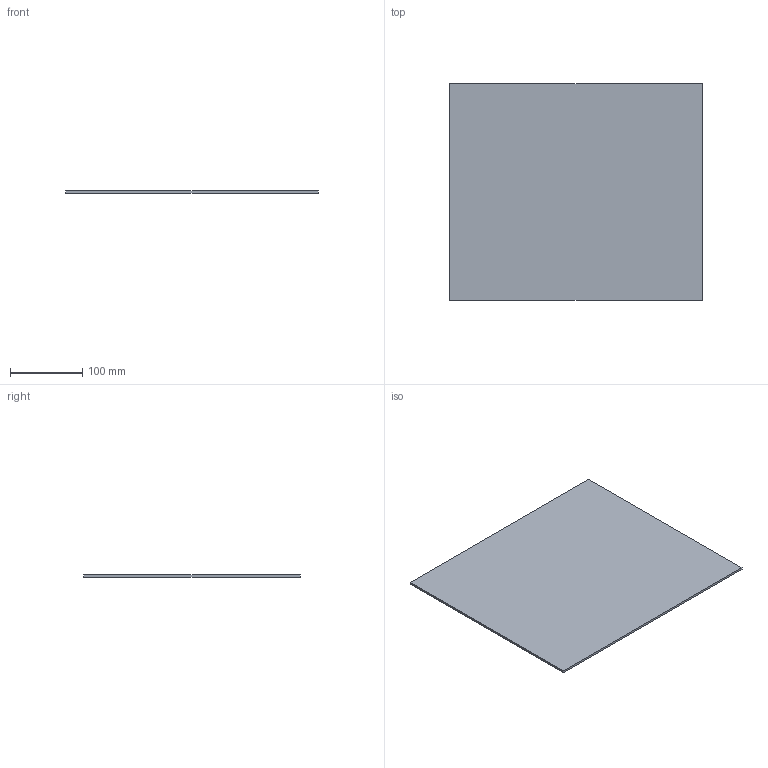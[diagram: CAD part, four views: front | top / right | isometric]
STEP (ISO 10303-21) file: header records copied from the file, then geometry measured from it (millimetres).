
FILE_DESCRIPTION(('Open CASCADE Model'),'2;1');
FILE_NAME('Open CASCADE Shape Model','2026-10-16T18:03:45',('Author'),( 'Open CASCADE'),'Open CASCADE STEP processor 7.8','Open CASCADE 7.8' ,'Unknown');
FILE_SCHEMA(('AUTOMOTIVE_DESIGN { 1 0 10303 214 1 1 1 1 }'));
Length unit declared in the file: millimetre
Products named in the file (1): Open CASCADE STEP translator 7.8 18
Bounding box: 350 x 300 x 3 mm (x, y, z)
Volume: 315000 mm3; surface area: 213900 mm2
Topology: 1 solids, 1 shells, 6 faces, 12 edges, 8 vertices
Faces by surface type: plane 6
Entity records: 322 total; most frequent: CARTESIAN_POINT 51, DIRECTION 50, LINE 36, VECTOR 36, ORIENTED_EDGE 24, PCURVE 24, DEFINITIONAL_REPRESENTATION 24, EDGE_CURVE 12
